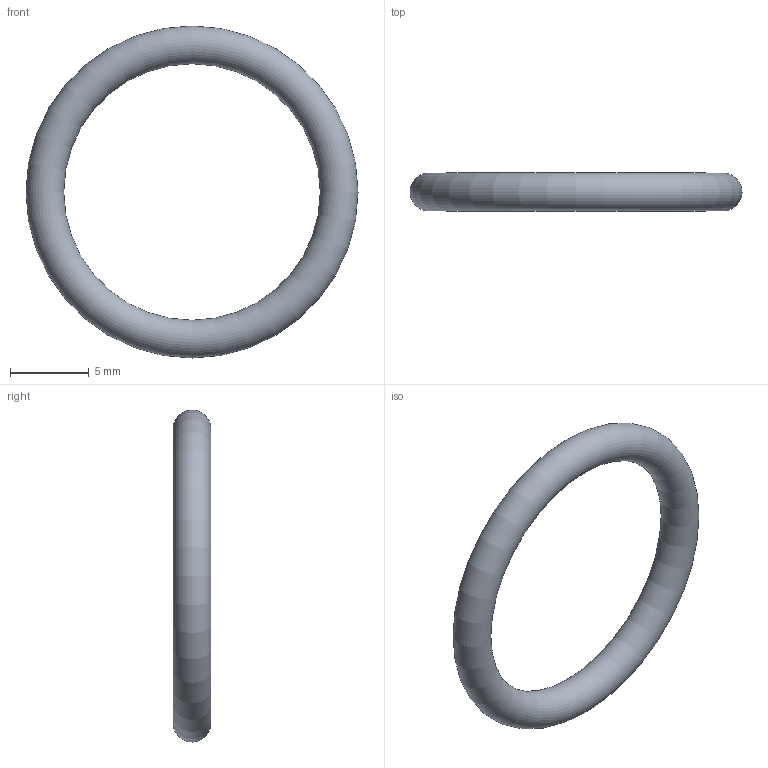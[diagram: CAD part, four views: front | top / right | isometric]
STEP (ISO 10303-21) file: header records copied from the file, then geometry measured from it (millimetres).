
FILE_DESCRIPTION( ( 'STEP AP203' ), '1' );
FILE_NAME( 'C:/Temp/Ganter_Step_05_03_2020/data/3_5/or638/O-Ring OR638-16.30-2.40-70.stp', '2020-03-12T13:44:25', ( 'License CC BY-ND 4.0' ), ( 'CADENAS' ), ' ', 'PARTsolutions', ' ' );
FILE_SCHEMA( ( 'CONFIG_CONTROL_DESIGN' ) );
Length unit declared in the file: millimetre
Products named in the file (1): _O-Ring OR638-16.30-2.40-70
Bounding box: 21.1 x 2.4 x 21.1 mm (x, y, z)
Volume: 265.8 mm3; surface area: 442.9 mm2
Topology: 1 solids, 1 shells, 1 faces, 2 edges, 1 vertices
Faces by surface type: torus 1
Entity records: 62 total; most frequent: CC_DESIGN_PERSON_AND_ORGANIZATION_ASSIGNMENT 5, PERSON_AND_ORGANIZATION_ROLE 4, DIRECTION 4, CARTESIAN_POINT 3, DATE_TIME_ROLE 2, CC_DESIGN_DATE_AND_TIME_ASSIGNMENT 2, AXIS2_PLACEMENT_3D 2, DIMENSIONAL_EXPONENTS 2
